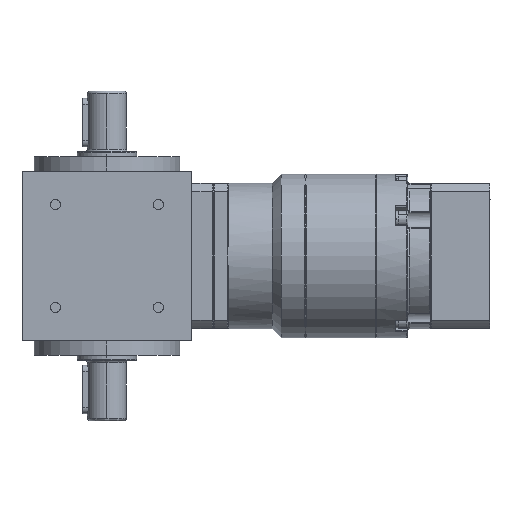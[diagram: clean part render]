
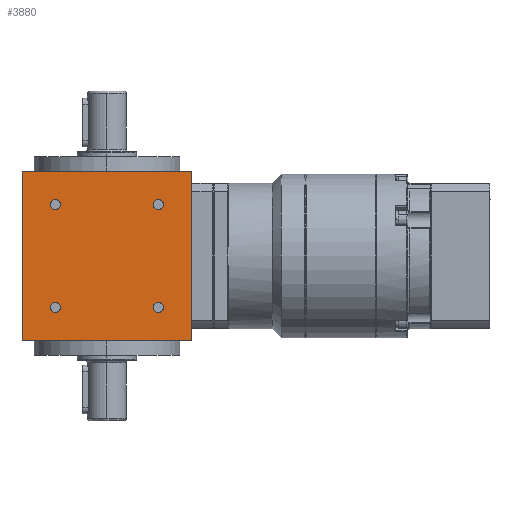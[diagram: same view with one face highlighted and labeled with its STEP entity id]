
A CAD part, left-side view. The second image highlights one B-rep face of the part: STEP entity #3880.
In plain terms, the highlighted planar face has unit normal (-1, 0, 0).
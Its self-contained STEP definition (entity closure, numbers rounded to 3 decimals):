
#153 = EDGE_CURVE ( 'NONE', #9540, #26269, #28504, .T. ) ;
#458 = DIRECTION ( 'NONE',  ( 1., 0., 0. ) ) ;
#544 = CIRCLE ( 'NONE', #19201, 2.1 ) ;
#696 = LINE ( 'NONE', #13545, #5459 ) ;
#703 = DIRECTION ( 'NONE',  ( 0., -1., 0. ) ) ;
#853 = DIRECTION ( 'NONE',  ( 0., 0., -1. ) ) ;
#858 = DIRECTION ( 'NONE',  ( 1., 0., 0. ) ) ;
#937 = VERTEX_POINT ( 'NONE', #4216 ) ;
#1052 = VECTOR ( 'NONE', #11519, 1000. ) ;
#1318 = ORIENTED_EDGE ( 'NONE', *, *, #5762, .T. ) ;
#2061 = AXIS2_PLACEMENT_3D ( 'NONE', #22936, #17580, #12914 ) ;
#2380 = EDGE_CURVE ( 'NONE', #9540, #32649, #24066, .T. ) ;
#3160 = CIRCLE ( 'NONE', #13287, 2.1 ) ;
#3862 = DIRECTION ( 'NONE',  ( 1., 0., 0. ) ) ;
#3880 = ADVANCED_FACE ( 'NONE', ( #20289, #25459, #10420, #12757, #22957 ), #10268, .T. ) ;
#3882 = EDGE_CURVE ( 'NONE', #26269, #11993, #31642, .T. ) ;
#4216 = CARTESIAN_POINT ( 'NONE',  ( -35., 23.313, -21.213 ) ) ;
#4345 = VECTOR ( 'NONE', #23445, 1000. ) ;
#4383 = EDGE_CURVE ( 'NONE', #11993, #32649, #696, .T. ) ;
#4517 = CARTESIAN_POINT ( 'NONE',  ( -35., -21.213, 21.213 ) ) ;
#5429 = ORIENTED_EDGE ( 'NONE', *, *, #5617, .T. ) ;
#5459 = VECTOR ( 'NONE', #853, 1000. ) ;
#5617 = EDGE_CURVE ( 'NONE', #12670, #21786, #12451, .T. ) ;
#5762 = EDGE_CURVE ( 'NONE', #25395, #8879, #18837, .T. ) ;
#5893 = CARTESIAN_POINT ( 'NONE',  ( -35., -23.313, -21.213 ) ) ;
#6474 = CIRCLE ( 'NONE', #9125, 2.1 ) ;
#7643 = CARTESIAN_POINT ( 'NONE',  ( -35., 21.213, 21.213 ) ) ;
#7898 = DIRECTION ( 'NONE',  ( 1., 0., 0. ) ) ;
#8148 = DIRECTION ( 'NONE',  ( 0., -1., 0. ) ) ;
#8268 = ORIENTED_EDGE ( 'NONE', *, *, #2380, .T. ) ;
#8753 = DIRECTION ( 'NONE',  ( 0., -1., 0. ) ) ;
#8879 = VERTEX_POINT ( 'NONE', #22632 ) ;
#9125 = AXIS2_PLACEMENT_3D ( 'NONE', #32815, #7898, #30284 ) ;
#9540 = VERTEX_POINT ( 'NONE', #24229 ) ;
#10268 = PLANE ( 'NONE',  #16614 ) ;
#10308 = AXIS2_PLACEMENT_3D ( 'NONE', #4517, #3862, #16850 ) ;
#10420 = FACE_BOUND ( 'NONE', #19444, .T. ) ;
#10528 = AXIS2_PLACEMENT_3D ( 'NONE', #7643, #18608, #8753 ) ;
#10587 = CARTESIAN_POINT ( 'NONE',  ( -35., 0., 35. ) ) ;
#10910 = DIRECTION ( 'NONE',  ( 0., 0., 1. ) ) ;
#11099 = CIRCLE ( 'NONE', #19632, 2.1 ) ;
#11519 = DIRECTION ( 'NONE',  ( 0., -1., 0. ) ) ;
#11674 = ORIENTED_EDGE ( 'NONE', *, *, #3882, .F. ) ;
#11993 = VERTEX_POINT ( 'NONE', #29088 ) ;
#12451 = CIRCLE ( 'NONE', #31140, 2.1 ) ;
#12670 = VERTEX_POINT ( 'NONE', #17782 ) ;
#12757 = FACE_BOUND ( 'NONE', #29564, .T. ) ;
#12883 = ORIENTED_EDGE ( 'NONE', *, *, #153, .F. ) ;
#12914 = DIRECTION ( 'NONE',  ( 0., -1., 0. ) ) ;
#13100 = ORIENTED_EDGE ( 'NONE', *, *, #17480, .T. ) ;
#13287 = AXIS2_PLACEMENT_3D ( 'NONE', #29673, #32355, #24485 ) ;
#13545 = CARTESIAN_POINT ( 'NONE',  ( -35., -35., -35. ) ) ;
#13856 = EDGE_LOOP ( 'NONE', ( #17957, #28170 ) ) ;
#14249 = CARTESIAN_POINT ( 'NONE',  ( -35., 19.113, -21.213 ) ) ;
#14389 = ORIENTED_EDGE ( 'NONE', *, *, #21589, .T. ) ;
#14891 = ORIENTED_EDGE ( 'NONE', *, *, #30689, .T. ) ;
#15418 = CARTESIAN_POINT ( 'NONE',  ( -35., 21.213, -21.213 ) ) ;
#15590 = DIRECTION ( 'NONE',  ( 1., 0., 0. ) ) ;
#15784 = DIRECTION ( 'NONE',  ( 0., 0., 1. ) ) ;
#15895 = VECTOR ( 'NONE', #15784, 1000. ) ;
#16371 = CARTESIAN_POINT ( 'NONE',  ( -35., 0., -35. ) ) ;
#16490 = VERTEX_POINT ( 'NONE', #25320 ) ;
#16614 = AXIS2_PLACEMENT_3D ( 'NONE', #23124, #23768, #10910 ) ;
#16652 = VERTEX_POINT ( 'NONE', #14249 ) ;
#16850 = DIRECTION ( 'NONE',  ( 0., -1., 0. ) ) ;
#17480 = EDGE_CURVE ( 'NONE', #16490, #22266, #3160, .T. ) ;
#17580 = DIRECTION ( 'NONE',  ( 1., 0., 0. ) ) ;
#17782 = CARTESIAN_POINT ( 'NONE',  ( -35., -19.113, -21.213 ) ) ;
#17833 = CARTESIAN_POINT ( 'NONE',  ( -35., -35., -35. ) ) ;
#17957 = ORIENTED_EDGE ( 'NONE', *, *, #18332, .T. ) ;
#18332 = EDGE_CURVE ( 'NONE', #16652, #937, #544, .T. ) ;
#18395 = CARTESIAN_POINT ( 'NONE',  ( -35., -21.213, -21.213 ) ) ;
#18608 = DIRECTION ( 'NONE',  ( 1., 0., 0. ) ) ;
#18837 = CIRCLE ( 'NONE', #10308, 2.1 ) ;
#19201 = AXIS2_PLACEMENT_3D ( 'NONE', #15418, #15590, #25624 ) ;
#19444 = EDGE_LOOP ( 'NONE', ( #14389, #5429 ) ) ;
#19632 = AXIS2_PLACEMENT_3D ( 'NONE', #30549, #458, #8148 ) ;
#20289 = FACE_OUTER_BOUND ( 'NONE', #20977, .T. ) ;
#20964 = CARTESIAN_POINT ( 'NONE',  ( -35., -23.313, 21.213 ) ) ;
#20977 = EDGE_LOOP ( 'NONE', ( #12883, #8268, #31830, #11674 ) ) ;
#21589 = EDGE_CURVE ( 'NONE', #21786, #12670, #6474, .T. ) ;
#21786 = VERTEX_POINT ( 'NONE', #5893 ) ;
#22201 = ORIENTED_EDGE ( 'NONE', *, *, #29443, .T. ) ;
#22266 = VERTEX_POINT ( 'NONE', #29322 ) ;
#22632 = CARTESIAN_POINT ( 'NONE',  ( -35., -19.113, 21.213 ) ) ;
#22814 = CARTESIAN_POINT ( 'NONE',  ( -35., 35., -35. ) ) ;
#22936 = CARTESIAN_POINT ( 'NONE',  ( -35., -21.213, 21.213 ) ) ;
#22957 = FACE_BOUND ( 'NONE', #29614, .T. ) ;
#23124 = CARTESIAN_POINT ( 'NONE',  ( -35., 35., -35. ) ) ;
#23445 = DIRECTION ( 'NONE',  ( 0., -1., 0. ) ) ;
#23768 = DIRECTION ( 'NONE',  ( -1., 0., 0. ) ) ;
#24066 = LINE ( 'NONE', #16371, #1052 ) ;
#24229 = CARTESIAN_POINT ( 'NONE',  ( -35., 35., -35. ) ) ;
#24485 = DIRECTION ( 'NONE',  ( 0., -1., 0. ) ) ;
#25320 = CARTESIAN_POINT ( 'NONE',  ( -35., 23.313, 21.213 ) ) ;
#25395 = VERTEX_POINT ( 'NONE', #20964 ) ;
#25459 = FACE_BOUND ( 'NONE', #13856, .T. ) ;
#25482 = CIRCLE ( 'NONE', #10528, 2.1 ) ;
#25624 = DIRECTION ( 'NONE',  ( 0., -1., 0. ) ) ;
#25864 = CARTESIAN_POINT ( 'NONE',  ( -35., 35., 35. ) ) ;
#26001 = CIRCLE ( 'NONE', #2061, 2.1 ) ;
#26269 = VERTEX_POINT ( 'NONE', #25864 ) ;
#28170 = ORIENTED_EDGE ( 'NONE', *, *, #29888, .T. ) ;
#28504 = LINE ( 'NONE', #22814, #15895 ) ;
#29088 = CARTESIAN_POINT ( 'NONE',  ( -35., -35., 35. ) ) ;
#29322 = CARTESIAN_POINT ( 'NONE',  ( -35., 19.113, 21.213 ) ) ;
#29443 = EDGE_CURVE ( 'NONE', #22266, #16490, #25482, .T. ) ;
#29564 = EDGE_LOOP ( 'NONE', ( #1318, #14891 ) ) ;
#29614 = EDGE_LOOP ( 'NONE', ( #22201, #13100 ) ) ;
#29673 = CARTESIAN_POINT ( 'NONE',  ( -35., 21.213, 21.213 ) ) ;
#29888 = EDGE_CURVE ( 'NONE', #937, #16652, #11099, .T. ) ;
#30284 = DIRECTION ( 'NONE',  ( 0., -1., 0. ) ) ;
#30549 = CARTESIAN_POINT ( 'NONE',  ( -35., 21.213, -21.213 ) ) ;
#30689 = EDGE_CURVE ( 'NONE', #8879, #25395, #26001, .T. ) ;
#31140 = AXIS2_PLACEMENT_3D ( 'NONE', #18395, #858, #703 ) ;
#31642 = LINE ( 'NONE', #10587, #4345 ) ;
#31830 = ORIENTED_EDGE ( 'NONE', *, *, #4383, .F. ) ;
#32355 = DIRECTION ( 'NONE',  ( 1., 0., 0. ) ) ;
#32649 = VERTEX_POINT ( 'NONE', #17833 ) ;
#32815 = CARTESIAN_POINT ( 'NONE',  ( -35., -21.213, -21.213 ) ) ;
